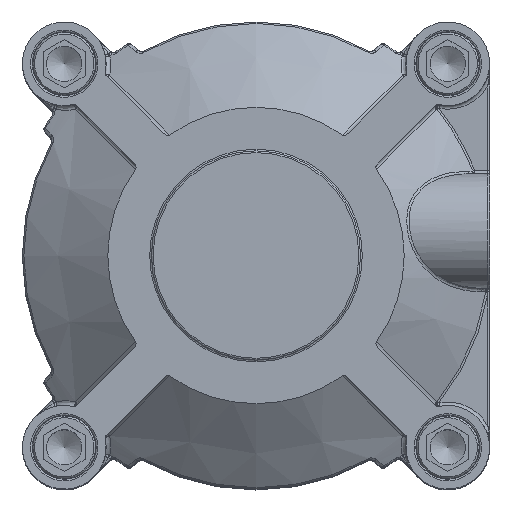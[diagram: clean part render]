
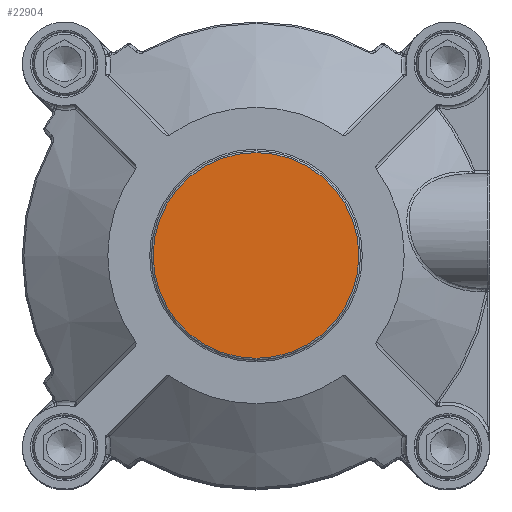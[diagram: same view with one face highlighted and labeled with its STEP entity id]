
A CAD part, top view. The second image highlights one B-rep face of the part: STEP entity #22904.
In plain terms, the highlighted planar face has unit normal (0, 0, 1).
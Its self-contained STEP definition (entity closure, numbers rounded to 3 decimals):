
#4748=FACE_OUTER_BOUND('',#6303,.T.);
#6303=EDGE_LOOP('',(#15346));
#7993=CIRCLE('',#24768,29.5);
#9394=VERTEX_POINT('',#35713);
#11649=EDGE_CURVE('',#9394,#9394,#7993,.T.);
#15346=ORIENTED_EDGE('',*,*,#11649,.F.);
#20763=PLANE('',#24771);
#22904=ADVANCED_FACE('',(#4748),#20763,.T.);
#24768=AXIS2_PLACEMENT_3D('',#35714,#27991,#27992);
#24771=AXIS2_PLACEMENT_3D('',#35718,#27997,#27998);
#27991=DIRECTION('center_axis',(0.,0.,-1.));
#27992=DIRECTION('ref_axis',(-1.,0.,0.));
#27997=DIRECTION('center_axis',(0.,0.,1.));
#27998=DIRECTION('ref_axis',(1.,0.,0.));
#35713=CARTESIAN_POINT('',(29.5,0.,65.4));
#35714=CARTESIAN_POINT('Origin',(0.,0.,65.4));
#35718=CARTESIAN_POINT('Origin',(15.,0.,65.4));
